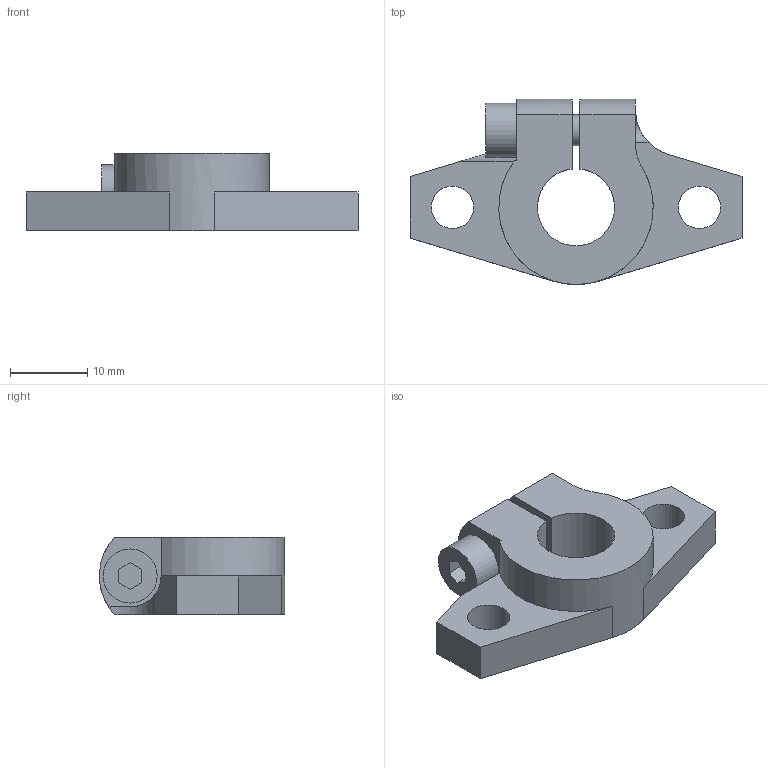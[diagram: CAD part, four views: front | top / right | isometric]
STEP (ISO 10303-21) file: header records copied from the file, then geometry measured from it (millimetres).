
FILE_DESCRIPTION(('STEP AP203'),'1');
FILE_NAME('//192.168.1.1/share/s-4 技術開発/s-4-14_個人別フォルダ/橋詰/09_CAD_DATA/3D/HP用/3Ｄモデル/SNF/SNF-10A.step','2021-09-16T23:47:06',(' '),(' '),'Spatial InterOp 3D',' ',' ');
FILE_SCHEMA(('CONFIG_CONTROL_DESIGN'));
Length unit declared in the file: millimetre
Products named in the file (2): 1; 2
Bounding box: 43 x 23.98 x 10 mm (x, y, z)
Volume: 4342.5 mm3; surface area: 3126 mm2
Topology: 2 solids, 2 shells, 43 faces, 115 edges, 77 vertices
Faces by surface type: plane 27, cylinder 15, cone 1
Full cylindrical faces by diameter (mm): 3.3 x1, 4 x2, 4.5 x1, 5.5 x2, 7 x1
Entity records: 1431 total; most frequent: CARTESIAN_POINT 292, DIRECTION 219, ORIENTED_EDGE 204, EDGE_CURVE 102, AXIS2_PLACEMENT_3D 77, VERTEX_POINT 72, LINE 65, VECTOR 65
